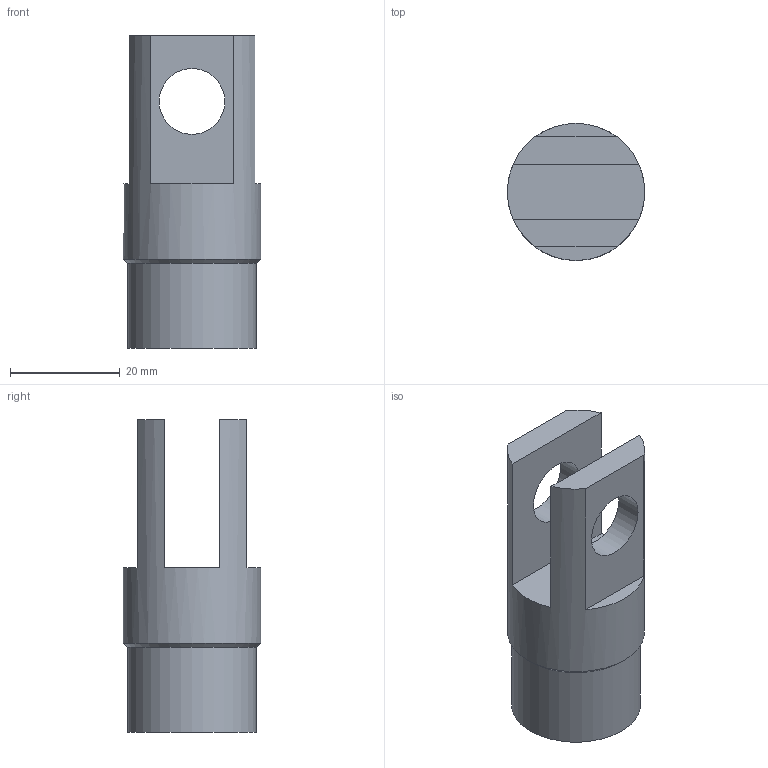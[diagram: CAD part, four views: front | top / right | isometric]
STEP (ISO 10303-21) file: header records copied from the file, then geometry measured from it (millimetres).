
FILE_DESCRIPTION(/* description */ ('Unknown'),/* implementation_level */ '2;1');
FILE_NAME(/* name */ 'WK40_WK50_Y',/* time_stamp */ '2026-07-17T16:40:15+08:00',/* author */ ('Unknown'),/* organization */ ('Unknown'),/* preprocessor_version */ 'ST-DEVELOPER v16.7',/* originating_system */ 'DEX',/* authorisation */ $);
FILE_SCHEMA (('CONFIG_CONTROL_DESIGN'));
Length unit declared in the file: millimetre
Products named in the file (1): WK40_WK50_Y
Bounding box: 25 x 25 x 57 mm (x, y, z)
Volume: 16094.5 mm3; surface area: 6506.5 mm2
Topology: 1 solids, 1 shells, 17 faces, 43 edges, 29 vertices
Faces by surface type: plane 11, cylinder 5, cone 1
Full cylindrical faces by diameter (mm): 12 x2, 12.5 x1, 23.5 x1, 25 x1
Entity records: 607 total; most frequent: DIRECTION 86, CARTESIAN_POINT 76, ORIENTED_EDGE 66, AXIS2_PLACEMENT_3D 35, EDGE_CURVE 33, EDGE_LOOP 28, FACE_BOUND 28, VERTEX_POINT 25
